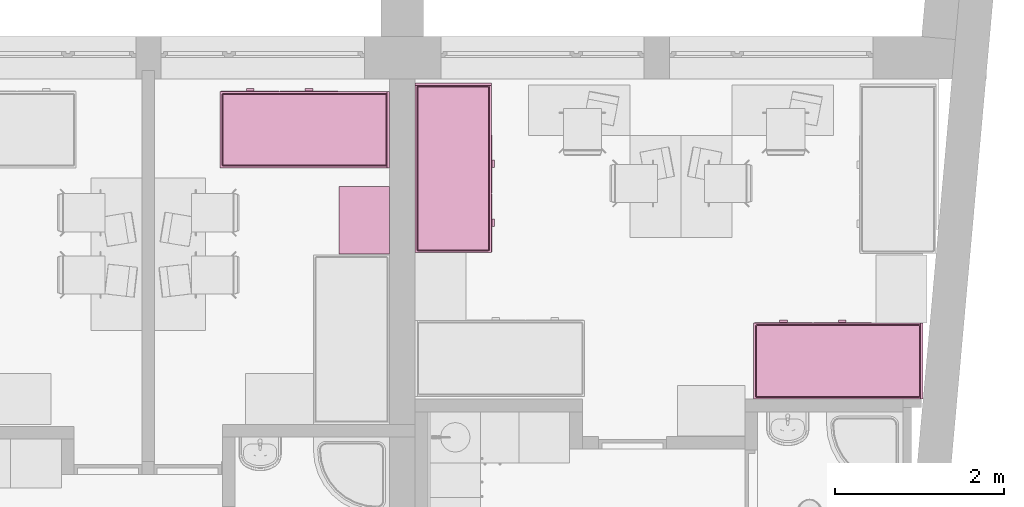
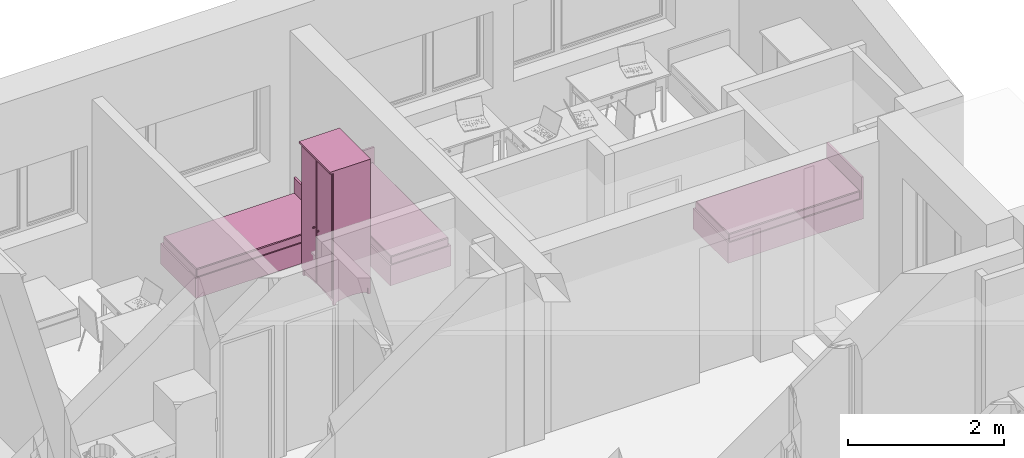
# One storey, part 146 of 165: 4 furnishings.
"""IFC2X3 building model written with IfcOpenShell, lengths in millimetres."""

from ifc_helpers import new_model, entity, si_unit, converted_unit, money_unit, direction, frame, origin_with_axes, place, context, subcontext, project, spatial, faceted_brep, source, transform, mapped, material, material_list, type_object, element, save


model = new_model("IFC2X3")

# Units and contexts
model_context = context("Model", 3, precision=1e-05, world=origin_with_axes(), true_north=direction((0.0, 1.0)))
body_context = subcontext(model_context, "Body", "Model", "MODEL_VIEW")
ifc_project = project(units=[si_unit("LENGTHUNIT", "METRE", prefix="MILLI"), si_unit("AREAUNIT", "SQUARE_METRE"), si_unit("VOLUMEUNIT", "CUBIC_METRE"), converted_unit("PLANEANGLEUNIT", "DEGREE", entity("IfcPlaneAngleMeasure", 0.0174532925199), si_unit("PLANEANGLEUNIT", "RADIAN"), dimensions=[0, 0, 0, 0, 0, 0, 0]), si_unit("SOLIDANGLEUNIT", "STERADIAN"), money_unit("USD"), converted_unit("TIMEUNIT", "Year", entity("IfcTimeMeasure", 31556926.0), si_unit("TIMEUNIT", "SECOND"), dimensions=[0, 0, 0, 0, 0, 0, 0]), si_unit("MASSUNIT", "GRAM"), si_unit("THERMODYNAMICTEMPERATUREUNIT", "DEGREE_CELSIUS"), si_unit("LUMINOUSINTENSITYUNIT", "LUMEN")], contexts=[model_context])

# Site, building, storey
site_placement = place(None, origin_with_axes())
site = spatial("IfcSite", under=ifc_project, at=site_placement, Name="Site", CompositionType="ELEMENT")
building_placement = place(site_placement, origin_with_axes())
building = spatial("IfcBuilding", under=site, at=building_placement, Name="Building", CompositionType="ELEMENT")
storey_placement = place(building_placement, frame((0.0, 0.0, 6300.0), z_axis=(0.0, 0.0, 1.0), x_axis=(1.0, 0.0, 0.0)))
storey = spatial("IfcBuildingStorey", under=building, at=storey_placement, Name="4KORRUS", CompositionType="ELEMENT", Elevation=6300.0)

# Furnishings
ifc_material = material(Name="Background")
ifc_material_list = material_list([ifc_material])
furnishing_element_type_1 = type_object("IfcFurnishingElementType", Name="Bed 19")
shared_shape_1 = source(origin_with_axes(), body_context, "Body", "Brep", [
    faceted_brep([(900.0, 1970.0, 0.0), (0.0, 1970.0, 0.0), (0.0, 2000.0, 0.0), (900.0, 2000.0, 0.0), (900.0, 1970.0, 660.0), (0.0, 1970.0, 660.0), (0.0, 2000.0, 660.0), (900.0, 2000.0, 660.0)], [[[0, 1, 2, 3]], [[1, 0, 4, 5]], [[2, 1, 5, 6]], [[3, 2, 6, 7]], [[0, 3, 7, 4]], [[5, 4, 7, 6]]]),
    faceted_brep([(900.0, 0.0, 0.0), (0.0, 0.0, 0.0), (0.0, 1970.0, 0.0), (900.0, 1970.0, 0.0), (900.0, 0.0, 320.0), (0.0, 0.0, 320.0), (0.0, 1970.0, 320.0), (900.0, 1970.0, 320.0)], [[[0, 1, 2, 3]], [[1, 0, 4, 5]], [[2, 1, 5, 6]], [[3, 2, 6, 7]], [[0, 3, 7, 4]], [[5, 4, 7, 6]]]),
    faceted_brep([(905.0, 10.0, 30.0), (900.0, 10.0, 30.0), (900.0, 695.0, 30.0), (905.0, 695.0, 30.0), (905.0, 10.0, 290.0), (900.0, 10.0, 290.0), (900.0, 695.0, 290.0), (905.0, 695.0, 290.0)], [[[0, 1, 2, 3]], [[1, 0, 4, 5]], [[2, 1, 5, 6]], [[3, 2, 6, 7]], [[0, 3, 7, 4]], [[5, 4, 7, 6]]]),
    faceted_brep([(935.0, 307.5, 150.0), (905.0, 307.5, 150.0), (905.0, 397.5, 150.0), (935.0, 397.5, 150.0), (935.0, 307.5, 170.0), (905.0, 307.5, 170.0), (905.0, 397.5, 170.0), (935.0, 397.5, 170.0)], [[[0, 1, 2, 3]], [[1, 0, 4, 5]], [[2, 1, 5, 6]], [[3, 2, 6, 7]], [[0, 3, 7, 4]], [[5, 4, 7, 6]]]),
    faceted_brep([(905.0, 705.0, 30.0), (900.0, 705.0, 30.0), (900.0, 1390.0, 30.0), (905.0, 1390.0, 30.0), (905.0, 705.0, 290.0), (900.0, 705.0, 290.0), (900.0, 1390.0, 290.0), (905.0, 1390.0, 290.0)], [[[0, 1, 2, 3]], [[1, 0, 4, 5]], [[2, 1, 5, 6]], [[3, 2, 6, 7]], [[0, 3, 7, 4]], [[5, 4, 7, 6]]]),
    faceted_brep([(935.0, 1002.5, 150.0), (905.0, 1002.5, 150.0), (905.0, 1092.5, 150.0), (935.0, 1092.5, 150.0), (935.0, 1002.5, 170.0), (905.0, 1002.5, 170.0), (905.0, 1092.5, 170.0), (935.0, 1092.5, 170.0)], [[[0, 1, 2, 3]], [[1, 0, 4, 5]], [[2, 1, 5, 6]], [[3, 2, 6, 7]], [[0, 3, 7, 4]], [[5, 4, 7, 6]]]),
    faceted_brep([(20.0, 40.0, 350.0), (20.0, 1950.0, 350.0), (21.522, 1957.654, 350.0), (25.858, 1964.142, 350.0), (32.346, 1968.478, 350.0), (40.0, 1970.0, 350.0), (860.0, 1970.0, 350.0), (867.654, 1968.478, 350.0), (874.142, 1964.142, 350.0), (878.478, 1957.654, 350.0), (880.0, 1950.0, 350.0), (880.0, 40.0, 350.0), (878.478, 32.346, 350.0), (874.142, 25.858, 350.0), (867.654, 21.522, 350.0), (860.0, 20.0, 350.0), (40.0, 20.0, 350.0), (32.346, 21.522, 350.0), (25.858, 25.858, 350.0), (21.522, 32.346, 350.0), (20.0, 40.0, 420.0), (20.0, 1950.0, 420.0), (21.522, 1957.654, 420.0), (25.858, 1964.142, 420.0), (32.346, 1968.478, 420.0), (40.0, 1970.0, 420.0), (860.0, 1970.0, 420.0), (867.654, 1968.478, 420.0), (874.142, 1964.142, 420.0), (878.478, 1957.654, 420.0), (880.0, 1950.0, 420.0), (880.0, 40.0, 420.0), (878.478, 32.346, 420.0), (874.142, 25.858, 420.0), (867.654, 21.522, 420.0), (860.0, 20.0, 420.0), (40.0, 20.0, 420.0), (32.346, 21.522, 420.0), (25.858, 25.858, 420.0), (21.522, 32.346, 420.0), (21.522, 40.15, 427.654), (21.522, 1949.85, 427.654), (22.956, 1957.06, 427.654), (26.955, 1963.045, 427.654), (32.94, 1967.044, 427.654), (40.15, 1968.478, 427.654), (859.85, 1968.478, 427.654), (867.06, 1967.044, 427.654), (873.045, 1963.045, 427.654), (877.044, 1957.06, 427.654), (878.478, 1949.85, 427.654), (878.478, 40.15, 427.654), (877.044, 32.94, 427.654), (873.045, 26.955, 427.654), (867.06, 22.956, 427.654), (859.85, 21.522, 427.654), (40.15, 21.522, 427.654), (32.94, 22.956, 427.654), (26.955, 26.955, 427.654), (22.956, 32.94, 427.654), (32.346, 41.216, 438.478), (32.346, 1948.784, 438.478), (33.152, 1952.836, 438.478), (34.759, 1955.241, 438.478), (37.164, 1956.848, 438.478), (41.216, 1957.654, 438.478), (858.784, 1957.654, 438.478), (862.836, 1956.848, 438.478), (865.241, 1955.241, 438.478), (866.848, 1952.836, 438.478), (867.654, 1948.784, 438.478), (867.654, 41.216, 438.478), (866.848, 37.164, 438.478), (865.241, 34.759, 438.478), (862.836, 33.152, 438.478), (858.784, 32.346, 438.478), (41.216, 32.346, 438.478), (37.164, 33.152, 438.478), (34.759, 34.759, 438.478), (33.152, 37.164, 438.478), (40.0, 41.97, 440.0), (40.0, 1948.03, 440.0), (40.327, 1949.673, 440.0), (40.0, 1950.0, 439.924), (41.97, 1950.0, 440.0), (858.03, 1950.0, 440.0), (859.673, 1949.673, 440.0), (860.0, 1950.0, 439.924), (860.0, 1948.03, 440.0), (860.0, 41.97, 440.0), (859.673, 40.327, 440.0), (860.0, 40.0, 439.924), (858.03, 40.0, 440.0), (41.97, 40.0, 440.0), (40.327, 40.327, 440.0), (40.0, 40.0, 439.924)], [[[0, 1, 2, 3, 4, 5, 6, 7, 8, 9, 10, 11, 12, 13, 14, 15, 16, 17, 18, 19]], [[1, 0, 20, 21]], [[2, 1, 21, 22]], [[3, 2, 22, 23]], [[4, 3, 23, 24]], [[5, 4, 24, 25]], [[6, 5, 25, 26]], [[7, 6, 26, 27]], [[8, 7, 27, 28]], [[9, 8, 28, 29]], [[10, 9, 29, 30]], [[11, 10, 30, 31]], [[12, 11, 31, 32]], [[13, 12, 32, 33]], [[14, 13, 33, 34]], [[15, 14, 34, 35]], [[16, 15, 35, 36]], [[17, 16, 36, 37]], [[18, 17, 37, 38]], [[19, 18, 38, 39]], [[0, 19, 39, 20]], [[21, 20, 40, 41]], [[22, 21, 41, 42]], [[23, 22, 42, 43]], [[24, 23, 43, 44]], [[25, 24, 44, 45]], [[26, 25, 45, 46]], [[27, 26, 46, 47]], [[28, 27, 47, 48]], [[29, 28, 48, 49]], [[30, 29, 49, 50]], [[31, 30, 50, 51]], [[32, 31, 51, 52]], [[33, 32, 52, 53]], [[34, 33, 53, 54]], [[35, 34, 54, 55]], [[36, 35, 55, 56]], [[37, 36, 56, 57]], [[38, 37, 57, 58]], [[39, 38, 58, 59]], [[20, 39, 59, 40]], [[41, 40, 60, 61]], [[42, 41, 61, 62]], [[43, 42, 62, 63]], [[44, 43, 63, 64]], [[45, 44, 64, 65]], [[46, 45, 65, 66]], [[47, 46, 66, 67]], [[48, 47, 67, 68]], [[49, 48, 68, 69]], [[50, 49, 69, 70]], [[51, 50, 70, 71]], [[52, 51, 71, 72]], [[53, 52, 72, 73]], [[54, 53, 73, 74]], [[55, 54, 74, 75]], [[56, 55, 75, 76]], [[57, 56, 76, 77]], [[58, 57, 77, 78]], [[59, 58, 78, 79]], [[40, 59, 79, 60]], [[61, 60, 80, 81]], [[62, 61, 81, 82, 83]], [[63, 62, 83]], [[64, 63, 83]], [[65, 64, 83, 82, 84]], [[66, 65, 84, 85]], [[67, 66, 85, 86, 87]], [[68, 67, 87]], [[69, 68, 87]], [[70, 69, 87, 86, 88]], [[71, 70, 88, 89]], [[72, 71, 89, 90, 91]], [[73, 72, 91]], [[74, 73, 91]], [[75, 74, 91, 90, 92]], [[76, 75, 92, 93]], [[77, 76, 93, 94, 95]], [[78, 77, 95]], [[79, 78, 95]], [[60, 79, 95, 94, 80]], [[81, 80, 94, 93, 92, 90, 89, 88, 86, 85, 84, 82]]]),
    faceted_brep([(20.0, 40.0, 350.0), (21.522, 32.346, 350.0), (25.858, 25.858, 350.0), (32.346, 21.522, 350.0), (40.0, 20.0, 350.0), (860.0, 20.0, 350.0), (867.654, 21.522, 350.0), (874.142, 25.858, 350.0), (878.478, 32.346, 350.0), (880.0, 40.0, 350.0), (880.0, 1950.0, 350.0), (878.478, 1957.654, 350.0), (874.142, 1964.142, 350.0), (867.654, 1968.478, 350.0), (860.0, 1970.0, 350.0), (40.0, 1970.0, 350.0), (32.346, 1968.478, 350.0), (25.858, 1964.142, 350.0), (21.522, 1957.654, 350.0), (20.0, 1950.0, 350.0), (20.0, 40.0, 320.0), (21.522, 32.346, 320.0), (25.858, 25.858, 320.0), (32.346, 21.522, 320.0), (40.0, 20.0, 320.0), (860.0, 20.0, 320.0), (867.654, 21.522, 320.0), (874.142, 25.858, 320.0), (878.478, 32.346, 320.0), (880.0, 40.0, 320.0), (880.0, 1950.0, 320.0), (878.478, 1957.654, 320.0), (874.142, 1964.142, 320.0), (867.654, 1968.478, 320.0), (860.0, 1970.0, 320.0), (40.0, 1970.0, 320.0), (32.346, 1968.478, 320.0), (25.858, 1964.142, 320.0), (21.522, 1957.654, 320.0), (20.0, 1950.0, 320.0)], [[[0, 1, 2, 3, 4, 5, 6, 7, 8, 9, 10, 11, 12, 13, 14, 15, 16, 17, 18, 19]], [[0, 20, 21, 1]], [[1, 21, 22, 2]], [[2, 22, 23, 3]], [[3, 23, 24, 4]], [[4, 24, 25, 5]], [[5, 25, 26, 6]], [[6, 26, 27, 7]], [[7, 27, 28, 8]], [[8, 28, 29, 9]], [[9, 29, 30, 10]], [[10, 30, 31, 11]], [[11, 31, 32, 12]], [[12, 32, 33, 13]], [[13, 33, 34, 14]], [[14, 34, 35, 15]], [[15, 35, 36, 16]], [[16, 36, 37, 17]], [[17, 37, 38, 18]], [[18, 38, 39, 19]], [[19, 39, 20, 0]], [[20, 39, 38, 37, 36, 35, 34, 33, 32, 31, 30, 29, 28, 27, 26, 25, 24, 23, 22, 21]]]),
])
furnishing_1_placement = place(storey_placement, frame((12009.7032967, -7190.45351827, 0.0), z_axis=(0.0, 0.0, 1.0), x_axis=(1.0, 0.0, 0.0)))
element("IfcFurnishingElement", 1, at=furnishing_1_placement, inside=storey, type_object=furnishing_element_type_1, material=ifc_material_list, Name="FU - 013", context=body_context, shape_type="MappedRepresentation", body=[
    mapped(shared_shape_1, transform((0.0, 0.0, 0.0))),
])
furnishing_element_type_2 = type_object("IfcFurnishingElementType", Name="Cupboard 19")
shared_shape_2 = source(origin_with_axes(), body_context, "Body", "Brep", [
    faceted_brep([(-780.0, 600.0, 120.0), (-780.0, 580.0, 120.0), (-780.0, 580.0, 2050.0), (-780.0, 600.0, 2050.0), (-20.0, 600.0, 120.0), (-20.0, 580.0, 120.0), (-20.0, 580.0, 2050.0), (-20.0, 600.0, 2050.0)], [[[0, 1, 2, 3]], [[0, 4, 5, 1]], [[1, 5, 6, 2]], [[3, 2, 6, 7]], [[4, 0, 3, 7]], [[5, 4, 7, 6]]]),
    faceted_brep([(0.0, 50.0, 100.0), (-20.0, 50.0, 100.0), (-20.0, 600.0, 100.0), (0.0, 600.0, 100.0), (0.0, 50.0, 2070.0), (-20.0, 50.0, 2070.0), (-20.0, 600.0, 2070.0), (0.0, 600.0, 2070.0)], [[[0, 1, 2, 3]], [[1, 0, 4, 5]], [[2, 1, 5, 6]], [[3, 2, 6, 7]], [[0, 3, 7, 4]], [[5, 4, 7, 6]]]),
    faceted_brep([(-780.0, 50.0, 100.0), (-800.0, 50.0, 100.0), (-800.0, 600.0, 100.0), (-780.0, 600.0, 100.0), (-780.0, 50.0, 2070.0), (-800.0, 50.0, 2070.0), (-800.0, 600.0, 2070.0), (-780.0, 600.0, 2070.0)], [[[0, 1, 2, 3]], [[1, 0, 4, 5]], [[2, 1, 5, 6]], [[3, 2, 6, 7]], [[0, 3, 7, 4]], [[5, 4, 7, 6]]]),
    faceted_brep([(-20.0, 50.0, 100.0), (-780.0, 50.0, 100.0), (-780.0, 600.0, 100.0), (-20.0, 600.0, 100.0), (-20.0, 50.0, 120.0), (-780.0, 50.0, 120.0), (-780.0, 600.0, 120.0), (-20.0, 600.0, 120.0)], [[[0, 1, 2, 3]], [[1, 0, 4, 5]], [[2, 1, 5, 6]], [[3, 2, 6, 7]], [[0, 3, 7, 4]], [[5, 4, 7, 6]]]),
    faceted_brep([(-20.0, 50.0, 2050.0), (-780.0, 50.0, 2050.0), (-780.0, 600.0, 2050.0), (-20.0, 600.0, 2050.0), (-20.0, 50.0, 2070.0), (-780.0, 50.0, 2070.0), (-780.0, 600.0, 2070.0), (-20.0, 600.0, 2070.0)], [[[0, 1, 2, 3]], [[1, 0, 4, 5]], [[2, 1, 5, 6]], [[3, 2, 6, 7]], [[0, 3, 7, 4]], [[5, 4, 7, 6]]]),
    faceted_brep([(0.0, 600.0, 2070.0), (0.0, 600.0, 2100.0), (0.0, 0.0, 2100.0), (0.0, 0.0, 2070.0), (-800.0, 600.0, 2070.0), (-800.0, 600.0, 2100.0), (-800.0, 0.0, 2100.0), (-800.0, 0.0, 2070.0)], [[[0, 1, 2, 3]], [[4, 5, 1, 0]], [[1, 5, 6, 2]], [[3, 2, 6, 7]], [[0, 3, 7, 4]], [[7, 6, 5, 4]]]),
    faceted_brep([(-760.0, 590.0, 25.0), (-640.962, 590.0, 45.8), (-640.962, 570.0, 45.8), (-760.0, 570.0, 25.0), (-760.0, 590.0, 100.0), (-40.0, 590.0, 100.0), (-40.0, 590.0, 25.0), (-159.038, 590.0, 45.8), (-279.23, 590.0, 58.32), (-400.0, 590.0, 62.5), (-520.77, 590.0, 58.32), (-520.77, 570.0, 58.32), (-400.0, 570.0, 62.5), (-279.23, 570.0, 58.32), (-159.038, 570.0, 45.8), (-40.0, 570.0, 25.0), (-40.0, 570.0, 100.0), (-760.0, 570.0, 100.0)], [[[0, 1, 2, 3]], [[0, 4, 5, 6, 7, 8, 9, 10, 1]], [[1, 10, 11, 2]], [[3, 2, 11, 12, 13, 14, 15, 16, 17]], [[4, 0, 3, 17]], [[5, 4, 17, 16]], [[6, 5, 16, 15]], [[7, 6, 15, 14]], [[8, 7, 14, 13]], [[9, 8, 13, 12]], [[10, 9, 12, 11]]]),
    faceted_brep([(-760.0, 80.0, 25.0), (-640.962, 80.0, 45.8), (-640.962, 60.0, 45.8), (-760.0, 60.0, 25.0), (-760.0, 80.0, 100.0), (-40.0, 80.0, 100.0), (-40.0, 80.0, 25.0), (-159.038, 80.0, 45.8), (-279.23, 80.0, 58.32), (-400.0, 80.0, 62.5), (-520.77, 80.0, 58.32), (-520.77, 60.0, 58.32), (-400.0, 60.0, 62.5), (-279.23, 60.0, 58.32), (-159.038, 60.0, 45.8), (-40.0, 60.0, 25.0), (-40.0, 60.0, 100.0), (-760.0, 60.0, 100.0)], [[[0, 1, 2, 3]], [[0, 4, 5, 6, 7, 8, 9, 10, 1]], [[1, 10, 11, 2]], [[3, 2, 11, 12, 13, 14, 15, 16, 17]], [[4, 0, 3, 17]], [[5, 4, 17, 16]], [[6, 5, 16, 15]], [[7, 6, 15, 14]], [[8, 7, 14, 13]], [[9, 8, 13, 12]], [[10, 9, 12, 11]]]),
    faceted_brep([(-790.0, 90.0, 25.0), (-790.0, 141.266, 38.072), (-770.0, 141.266, 38.072), (-770.0, 90.0, 25.0), (-790.0, 90.0, 100.0), (-790.0, 560.0, 100.0), (-790.0, 560.0, 25.0), (-790.0, 508.734, 38.072), (-790.0, 456.752, 47.92), (-790.0, 404.257, 54.508), (-790.0, 351.453, 57.808), (-790.0, 298.547, 57.808), (-790.0, 245.743, 54.508), (-790.0, 193.248, 47.92), (-770.0, 193.248, 47.92), (-770.0, 245.743, 54.508), (-770.0, 298.547, 57.808), (-770.0, 351.453, 57.808), (-770.0, 404.257, 54.508), (-770.0, 456.752, 47.92), (-770.0, 508.734, 38.072), (-770.0, 560.0, 25.0), (-770.0, 560.0, 100.0), (-770.0, 90.0, 100.0)], [[[0, 1, 2, 3]], [[0, 4, 5, 6, 7, 8, 9, 10, 11, 12, 13, 1]], [[1, 13, 14, 2]], [[3, 2, 14, 15, 16, 17, 18, 19, 20, 21, 22, 23]], [[4, 0, 3, 23]], [[5, 4, 23, 22]], [[6, 5, 22, 21]], [[7, 6, 21, 20]], [[8, 7, 20, 19]], [[9, 8, 19, 18]], [[10, 9, 18, 17]], [[11, 10, 17, 16]], [[12, 11, 16, 15]], [[13, 12, 15, 14]]]),
    faceted_brep([(-30.0, 90.0, 25.0), (-30.0, 141.266, 38.072), (-10.0, 141.266, 38.072), (-10.0, 90.0, 25.0), (-30.0, 90.0, 100.0), (-30.0, 560.0, 100.0), (-30.0, 560.0, 25.0), (-30.0, 508.734, 38.072), (-30.0, 456.752, 47.92), (-30.0, 404.257, 54.508), (-30.0, 351.453, 57.808), (-30.0, 298.547, 57.808), (-30.0, 245.743, 54.508), (-30.0, 193.248, 47.92), (-10.0, 193.248, 47.92), (-10.0, 245.743, 54.508), (-10.0, 298.547, 57.808), (-10.0, 351.453, 57.808), (-10.0, 404.257, 54.508), (-10.0, 456.752, 47.92), (-10.0, 508.734, 38.072), (-10.0, 560.0, 25.0), (-10.0, 560.0, 100.0), (-10.0, 90.0, 100.0)], [[[0, 1, 2, 3]], [[0, 4, 5, 6, 7, 8, 9, 10, 11, 12, 13, 1]], [[1, 13, 14, 2]], [[3, 2, 14, 15, 16, 17, 18, 19, 20, 21, 22, 23]], [[4, 0, 3, 23]], [[5, 4, 23, 22]], [[6, 5, 22, 21]], [[7, 6, 21, 20]], [[8, 7, 20, 19]], [[9, 8, 19, 18]], [[10, 9, 18, 17]], [[11, 10, 17, 16]], [[12, 11, 16, 15]], [[13, 12, 15, 14]]]),
    faceted_brep([(-760.0, 560.0, 0.0), (-760.0, 600.0, 0.0), (-760.0, 600.0, 100.0), (-760.0, 560.0, 100.0), (-800.0, 560.0, 0.0), (-800.0, 600.0, 0.0), (-800.0, 600.0, 100.0), (-800.0, 560.0, 100.0)], [[[0, 1, 2, 3]], [[0, 4, 5, 1]], [[1, 5, 6, 2]], [[3, 2, 6, 7]], [[4, 0, 3, 7]], [[5, 4, 7, 6]]]),
    faceted_brep([(0.0, 560.0, 0.0), (0.0, 600.0, 0.0), (0.0, 600.0, 100.0), (0.0, 560.0, 100.0), (-40.0, 560.0, 0.0), (-40.0, 600.0, 0.0), (-40.0, 600.0, 100.0), (-40.0, 560.0, 100.0)], [[[0, 1, 2, 3]], [[0, 4, 5, 1]], [[1, 5, 6, 2]], [[3, 2, 6, 7]], [[4, 0, 3, 7]], [[5, 4, 7, 6]]]),
    faceted_brep([(-760.0, 50.0, 0.0), (-760.0, 90.0, 0.0), (-760.0, 90.0, 100.0), (-760.0, 50.0, 100.0), (-800.0, 50.0, 0.0), (-800.0, 90.0, 0.0), (-800.0, 90.0, 100.0), (-800.0, 50.0, 100.0)], [[[0, 1, 2, 3]], [[0, 4, 5, 1]], [[1, 5, 6, 2]], [[3, 2, 6, 7]], [[4, 0, 3, 7]], [[5, 4, 7, 6]]]),
    faceted_brep([(0.0, 50.0, 0.0), (0.0, 90.0, 0.0), (0.0, 90.0, 100.0), (0.0, 50.0, 100.0), (-40.0, 50.0, 0.0), (-40.0, 90.0, 0.0), (-40.0, 90.0, 100.0), (-40.0, 50.0, 100.0)], [[[0, 1, 2, 3]], [[0, 4, 5, 1]], [[1, 5, 6, 2]], [[3, 2, 6, 7]], [[4, 0, 3, 7]], [[5, 4, 7, 6]]]),
    faceted_brep([(-780.0, 580.0, 587.5), (-780.0, 50.0, 587.5), (-780.0, 50.0, 607.5), (-780.0, 580.0, 607.5), (-20.0, 580.0, 587.5), (-20.0, 50.0, 587.5), (-20.0, 50.0, 607.5), (-20.0, 580.0, 607.5)], [[[0, 1, 2, 3]], [[0, 4, 5, 1]], [[1, 5, 6, 2]], [[3, 2, 6, 7]], [[4, 0, 3, 7]], [[5, 4, 7, 6]]]),
    faceted_brep([(-780.0, 580.0, 1075.0), (-780.0, 50.0, 1075.0), (-780.0, 50.0, 1095.0), (-780.0, 580.0, 1095.0), (-20.0, 580.0, 1075.0), (-20.0, 50.0, 1075.0), (-20.0, 50.0, 1095.0), (-20.0, 580.0, 1095.0)], [[[0, 1, 2, 3]], [[0, 4, 5, 1]], [[1, 5, 6, 2]], [[3, 2, 6, 7]], [[4, 0, 3, 7]], [[5, 4, 7, 6]]]),
    faceted_brep([(-780.0, 580.0, 1562.5), (-780.0, 50.0, 1562.5), (-780.0, 50.0, 1582.5), (-780.0, 580.0, 1582.5), (-20.0, 580.0, 1562.5), (-20.0, 50.0, 1562.5), (-20.0, 50.0, 1582.5), (-20.0, 580.0, 1582.5)], [[[0, 1, 2, 3]], [[0, 4, 5, 1]], [[1, 5, 6, 2]], [[3, 2, 6, 7]], [[4, 0, 3, 7]], [[5, 4, 7, 6]]]),
    faceted_brep([(-789.5, 50.0, 110.5), (-789.5, 50.0, 2059.5), (-400.5, 50.0, 2059.5), (-400.5, 50.0, 110.5), (-789.5, 40.0, 110.5), (-789.5, 40.0, 2059.5), (-400.5, 40.0, 2059.5), (-400.5, 40.0, 110.5), (-779.5, 30.0, 120.5), (-779.5, 30.0, 2049.5), (-410.5, 30.0, 2049.5), (-410.5, 30.0, 120.5)], [[[0, 1, 2, 3]], [[1, 0, 4, 5]], [[2, 1, 5, 6]], [[3, 2, 6, 7]], [[0, 3, 7, 4]], [[5, 4, 8, 9]], [[6, 5, 9, 10]], [[7, 6, 10, 11]], [[4, 7, 11, 8]], [[10, 9, 8, 11]]]),
    faceted_brep([(-399.5, 50.0, 110.5), (-399.5, 50.0, 2059.5), (-10.5, 50.0, 2059.5), (-10.5, 50.0, 110.5), (-399.5, 40.0, 110.5), (-399.5, 40.0, 2059.5), (-10.5, 40.0, 2059.5), (-10.5, 40.0, 110.5), (-389.5, 30.0, 120.5), (-389.5, 30.0, 2049.5), (-20.5, 30.0, 2049.5), (-20.5, 30.0, 120.5)], [[[0, 1, 2, 3]], [[1, 0, 4, 5]], [[2, 1, 5, 6]], [[3, 2, 6, 7]], [[0, 3, 7, 4]], [[5, 4, 8, 9]], [[6, 5, 9, 10]], [[7, 6, 10, 11]], [[4, 7, 11, 8]], [[10, 9, 8, 11]]]),
    faceted_brep([(-339.608, 30.0, 954.0), (-344.0, 30.0, 949.608), (-350.0, 30.0, 948.0), (-356.0, 30.0, 949.608), (-360.392, 30.0, 954.0), (-362.0, 30.0, 960.0), (-360.392, 30.0, 966.0), (-356.0, 30.0, 970.392), (-350.0, 30.0, 972.0), (-344.0, 30.0, 970.392), (-339.608, 30.0, 966.0), (-338.0, 30.0, 960.0), (-339.608, 5.0, 954.0), (-344.0, 5.0, 949.608), (-350.0, 5.0, 948.0), (-356.0, 5.0, 949.608), (-360.392, 5.0, 954.0), (-362.0, 5.0, 960.0), (-360.392, 5.0, 966.0), (-356.0, 5.0, 970.392), (-350.0, 5.0, 972.0), (-344.0, 5.0, 970.392), (-339.608, 5.0, 966.0), (-338.0, 5.0, 960.0)], [[[0, 1, 2, 3, 4, 5, 6, 7, 8, 9, 10, 11]], [[1, 0, 12, 13]], [[2, 1, 13, 14]], [[3, 2, 14, 15]], [[4, 3, 15, 16]], [[5, 4, 16, 17]], [[6, 5, 17, 18]], [[7, 6, 18, 19]], [[8, 7, 19, 20]], [[9, 8, 20, 21]], [[10, 9, 21, 22]], [[11, 10, 22, 23]], [[0, 11, 23, 12]], [[12, 23, 22, 21, 20, 19, 18, 17, 16, 15, 14, 13]]]),
    faceted_brep([(-460.392, 30.0, 954.0), (-462.0, 30.0, 960.0), (-460.392, 30.0, 966.0), (-456.0, 30.0, 970.392), (-450.0, 30.0, 972.0), (-444.0, 30.0, 970.392), (-439.608, 30.0, 966.0), (-438.0, 30.0, 960.0), (-439.608, 30.0, 954.0), (-444.0, 30.0, 949.608), (-450.0, 30.0, 948.0), (-456.0, 30.0, 949.608), (-460.392, 5.0, 954.0), (-462.0, 5.0, 960.0), (-460.392, 5.0, 966.0), (-456.0, 5.0, 970.392), (-450.0, 5.0, 972.0), (-444.0, 5.0, 970.392), (-439.608, 5.0, 966.0), (-438.0, 5.0, 960.0), (-439.608, 5.0, 954.0), (-444.0, 5.0, 949.608), (-450.0, 5.0, 948.0), (-456.0, 5.0, 949.608)], [[[0, 1, 2, 3, 4, 5, 6, 7, 8, 9, 10, 11]], [[0, 12, 13, 1]], [[1, 13, 14, 2]], [[2, 14, 15, 3]], [[3, 15, 16, 4]], [[4, 16, 17, 5]], [[5, 17, 18, 6]], [[6, 18, 19, 7]], [[7, 19, 20, 8]], [[8, 20, 21, 9]], [[9, 21, 22, 10]], [[10, 22, 23, 11]], [[11, 23, 12, 0]], [[12, 23, 22, 21, 20, 19, 18, 17, 16, 15, 14, 13]]]),
])
furnishing_2_placement = place(storey_placement, frame((11109.7032967, -7207.41563755, 0.0), z_axis=(0.0, 0.0, 1.0), x_axis=(0.0, -1.0, 0.0)))
element("IfcFurnishingElement", 2, at=furnishing_2_placement, inside=storey, type_object=furnishing_element_type_2, material=ifc_material_list, Name="FU - 014", context=body_context, shape_type="MappedRepresentation", body=[
    mapped(shared_shape_2, transform((0.0, 0.0, 0.0))),
])
shared_shape_3 = source(origin_with_axes(), body_context, "Body", "Brep", [
    faceted_brep([(-900.0, 1970.0, 0.0), (-900.0, 2000.0, 0.0), (0.0, 2000.0, 0.0), (0.0, 1970.0, 0.0), (-900.0, 1970.0, 660.0), (-900.0, 2000.0, 660.0), (0.0, 2000.0, 660.0), (0.0, 1970.0, 660.0)], [[[0, 1, 2, 3]], [[0, 4, 5, 1]], [[1, 5, 6, 2]], [[2, 6, 7, 3]], [[3, 7, 4, 0]], [[7, 6, 5, 4]]]),
    faceted_brep([(-900.0, 0.0, 0.0), (-900.0, 1970.0, 0.0), (0.0, 1970.0, 0.0), (0.0, 0.0, 0.0), (-900.0, 0.0, 320.0), (-900.0, 1970.0, 320.0), (0.0, 1970.0, 320.0), (0.0, 0.0, 320.0)], [[[0, 1, 2, 3]], [[0, 4, 5, 1]], [[1, 5, 6, 2]], [[2, 6, 7, 3]], [[3, 7, 4, 0]], [[7, 6, 5, 4]]]),
    faceted_brep([(-905.0, 10.0, 30.0), (-905.0, 695.0, 30.0), (-900.0, 695.0, 30.0), (-900.0, 10.0, 30.0), (-905.0, 10.0, 290.0), (-905.0, 695.0, 290.0), (-900.0, 695.0, 290.0), (-900.0, 10.0, 290.0)], [[[0, 1, 2, 3]], [[0, 4, 5, 1]], [[1, 5, 6, 2]], [[2, 6, 7, 3]], [[3, 7, 4, 0]], [[7, 6, 5, 4]]]),
    faceted_brep([(-935.0, 307.5, 150.0), (-935.0, 397.5, 150.0), (-905.0, 397.5, 150.0), (-905.0, 307.5, 150.0), (-935.0, 307.5, 170.0), (-935.0, 397.5, 170.0), (-905.0, 397.5, 170.0), (-905.0, 307.5, 170.0)], [[[0, 1, 2, 3]], [[0, 4, 5, 1]], [[1, 5, 6, 2]], [[2, 6, 7, 3]], [[3, 7, 4, 0]], [[7, 6, 5, 4]]]),
    faceted_brep([(-905.0, 705.0, 30.0), (-905.0, 1390.0, 30.0), (-900.0, 1390.0, 30.0), (-900.0, 705.0, 30.0), (-905.0, 705.0, 290.0), (-905.0, 1390.0, 290.0), (-900.0, 1390.0, 290.0), (-900.0, 705.0, 290.0)], [[[0, 1, 2, 3]], [[0, 4, 5, 1]], [[1, 5, 6, 2]], [[2, 6, 7, 3]], [[3, 7, 4, 0]], [[7, 6, 5, 4]]]),
    faceted_brep([(-935.0, 1002.5, 150.0), (-935.0, 1092.5, 150.0), (-905.0, 1092.5, 150.0), (-905.0, 1002.5, 150.0), (-935.0, 1002.5, 170.0), (-935.0, 1092.5, 170.0), (-905.0, 1092.5, 170.0), (-905.0, 1002.5, 170.0)], [[[0, 1, 2, 3]], [[0, 4, 5, 1]], [[1, 5, 6, 2]], [[2, 6, 7, 3]], [[3, 7, 4, 0]], [[7, 6, 5, 4]]]),
    faceted_brep([(-20.0, 40.0, 350.0), (-21.522, 32.346, 350.0), (-25.858, 25.858, 350.0), (-32.346, 21.522, 350.0), (-40.0, 20.0, 350.0), (-860.0, 20.0, 350.0), (-867.654, 21.522, 350.0), (-874.142, 25.858, 350.0), (-878.478, 32.346, 350.0), (-880.0, 40.0, 350.0), (-880.0, 1950.0, 350.0), (-878.478, 1957.654, 350.0), (-874.142, 1964.142, 350.0), (-867.654, 1968.478, 350.0), (-860.0, 1970.0, 350.0), (-40.0, 1970.0, 350.0), (-32.346, 1968.478, 350.0), (-25.858, 1964.142, 350.0), (-21.522, 1957.654, 350.0), (-20.0, 1950.0, 350.0), (-20.0, 40.0, 420.0), (-21.522, 32.346, 420.0), (-25.858, 25.858, 420.0), (-32.346, 21.522, 420.0), (-40.0, 20.0, 420.0), (-860.0, 20.0, 420.0), (-867.654, 21.522, 420.0), (-874.142, 25.858, 420.0), (-878.478, 32.346, 420.0), (-880.0, 40.0, 420.0), (-880.0, 1950.0, 420.0), (-878.478, 1957.654, 420.0), (-874.142, 1964.142, 420.0), (-867.654, 1968.478, 420.0), (-860.0, 1970.0, 420.0), (-40.0, 1970.0, 420.0), (-32.346, 1968.478, 420.0), (-25.858, 1964.142, 420.0), (-21.522, 1957.654, 420.0), (-20.0, 1950.0, 420.0), (-21.522, 40.15, 427.654), (-22.956, 32.94, 427.654), (-26.955, 26.955, 427.654), (-32.94, 22.956, 427.654), (-40.15, 21.522, 427.654), (-859.85, 21.522, 427.654), (-867.06, 22.956, 427.654), (-873.045, 26.955, 427.654), (-877.044, 32.94, 427.654), (-878.478, 40.15, 427.654), (-878.478, 1949.85, 427.654), (-877.044, 1957.06, 427.654), (-873.045, 1963.045, 427.654), (-867.06, 1967.044, 427.654), (-859.85, 1968.478, 427.654), (-40.15, 1968.478, 427.654), (-32.94, 1967.044, 427.654), (-26.955, 1963.045, 427.654), (-22.956, 1957.06, 427.654), (-21.522, 1949.85, 427.654), (-32.346, 41.216, 438.478), (-33.152, 37.164, 438.478), (-34.759, 34.759, 438.478), (-37.164, 33.152, 438.478), (-41.216, 32.346, 438.478), (-858.784, 32.346, 438.478), (-862.836, 33.152, 438.478), (-865.241, 34.759, 438.478), (-866.848, 37.164, 438.478), (-867.654, 41.216, 438.478), (-867.654, 1948.784, 438.478), (-866.848, 1952.836, 438.478), (-865.241, 1955.241, 438.478), (-862.836, 1956.848, 438.478), (-858.784, 1957.654, 438.478), (-41.216, 1957.654, 438.478), (-37.164, 1956.848, 438.478), (-34.759, 1955.241, 438.478), (-33.152, 1952.836, 438.478), (-32.346, 1948.784, 438.478), (-40.0, 41.97, 440.0), (-40.327, 40.327, 440.0), (-40.0, 40.0, 439.924), (-41.97, 40.0, 440.0), (-858.03, 40.0, 440.0), (-859.673, 40.327, 440.0), (-860.0, 40.0, 439.924), (-860.0, 41.97, 440.0), (-860.0, 1948.03, 440.0), (-859.673, 1949.673, 440.0), (-860.0, 1950.0, 439.924), (-858.03, 1950.0, 440.0), (-41.97, 1950.0, 440.0), (-40.327, 1949.673, 440.0), (-40.0, 1950.0, 439.924), (-40.0, 1948.03, 440.0)], [[[0, 1, 2, 3, 4, 5, 6, 7, 8, 9, 10, 11, 12, 13, 14, 15, 16, 17, 18, 19]], [[0, 20, 21, 1]], [[1, 21, 22, 2]], [[2, 22, 23, 3]], [[3, 23, 24, 4]], [[4, 24, 25, 5]], [[5, 25, 26, 6]], [[6, 26, 27, 7]], [[7, 27, 28, 8]], [[8, 28, 29, 9]], [[9, 29, 30, 10]], [[10, 30, 31, 11]], [[11, 31, 32, 12]], [[12, 32, 33, 13]], [[13, 33, 34, 14]], [[14, 34, 35, 15]], [[15, 35, 36, 16]], [[16, 36, 37, 17]], [[17, 37, 38, 18]], [[18, 38, 39, 19]], [[19, 39, 20, 0]], [[20, 40, 41, 21]], [[21, 41, 42, 22]], [[22, 42, 43, 23]], [[23, 43, 44, 24]], [[24, 44, 45, 25]], [[25, 45, 46, 26]], [[26, 46, 47, 27]], [[27, 47, 48, 28]], [[28, 48, 49, 29]], [[29, 49, 50, 30]], [[30, 50, 51, 31]], [[31, 51, 52, 32]], [[32, 52, 53, 33]], [[33, 53, 54, 34]], [[34, 54, 55, 35]], [[35, 55, 56, 36]], [[36, 56, 57, 37]], [[37, 57, 58, 38]], [[38, 58, 59, 39]], [[39, 59, 40, 20]], [[40, 60, 61, 41]], [[41, 61, 62, 42]], [[42, 62, 63, 43]], [[43, 63, 64, 44]], [[44, 64, 65, 45]], [[45, 65, 66, 46]], [[46, 66, 67, 47]], [[47, 67, 68, 48]], [[48, 68, 69, 49]], [[49, 69, 70, 50]], [[50, 70, 71, 51]], [[51, 71, 72, 52]], [[52, 72, 73, 53]], [[53, 73, 74, 54]], [[54, 74, 75, 55]], [[55, 75, 76, 56]], [[56, 76, 77, 57]], [[57, 77, 78, 58]], [[58, 78, 79, 59]], [[59, 79, 60, 40]], [[60, 80, 81, 82, 61]], [[61, 82, 62]], [[62, 82, 63]], [[63, 82, 81, 83, 64]], [[64, 83, 84, 65]], [[65, 84, 85, 86, 66]], [[66, 86, 67]], [[67, 86, 68]], [[68, 86, 85, 87, 69]], [[69, 87, 88, 70]], [[70, 88, 89, 90, 71]], [[71, 90, 72]], [[72, 90, 73]], [[73, 90, 89, 91, 74]], [[74, 91, 92, 75]], [[75, 92, 93, 94, 76]], [[76, 94, 77]], [[77, 94, 78]], [[78, 94, 93, 95, 79]], [[79, 95, 80, 60]], [[95, 93, 92, 91, 89, 88, 87, 85, 84, 83, 81, 80]]]),
    faceted_brep([(-20.0, 40.0, 350.0), (-20.0, 1950.0, 350.0), (-21.522, 1957.654, 350.0), (-25.858, 1964.142, 350.0), (-32.346, 1968.478, 350.0), (-40.0, 1970.0, 350.0), (-860.0, 1970.0, 350.0), (-867.654, 1968.478, 350.0), (-874.142, 1964.142, 350.0), (-878.478, 1957.654, 350.0), (-880.0, 1950.0, 350.0), (-880.0, 40.0, 350.0), (-878.478, 32.346, 350.0), (-874.142, 25.858, 350.0), (-867.654, 21.522, 350.0), (-860.0, 20.0, 350.0), (-40.0, 20.0, 350.0), (-32.346, 21.522, 350.0), (-25.858, 25.858, 350.0), (-21.522, 32.346, 350.0), (-20.0, 40.0, 320.0), (-20.0, 1950.0, 320.0), (-21.522, 1957.654, 320.0), (-25.858, 1964.142, 320.0), (-32.346, 1968.478, 320.0), (-40.0, 1970.0, 320.0), (-860.0, 1970.0, 320.0), (-867.654, 1968.478, 320.0), (-874.142, 1964.142, 320.0), (-878.478, 1957.654, 320.0), (-880.0, 1950.0, 320.0), (-880.0, 40.0, 320.0), (-878.478, 32.346, 320.0), (-874.142, 25.858, 320.0), (-867.654, 21.522, 320.0), (-860.0, 20.0, 320.0), (-40.0, 20.0, 320.0), (-32.346, 21.522, 320.0), (-25.858, 25.858, 320.0), (-21.522, 32.346, 320.0)], [[[0, 1, 2, 3, 4, 5, 6, 7, 8, 9, 10, 11, 12, 13, 14, 15, 16, 17, 18, 19]], [[1, 0, 20, 21]], [[2, 1, 21, 22]], [[3, 2, 22, 23]], [[4, 3, 23, 24]], [[5, 4, 24, 25]], [[6, 5, 25, 26]], [[7, 6, 26, 27]], [[8, 7, 27, 28]], [[9, 8, 28, 29]], [[10, 9, 29, 30]], [[11, 10, 30, 31]], [[12, 11, 31, 32]], [[13, 12, 32, 33]], [[14, 13, 33, 34]], [[15, 14, 34, 35]], [[16, 15, 35, 36]], [[17, 16, 36, 37]], [[18, 17, 37, 38]], [[19, 18, 38, 39]], [[0, 19, 39, 20]], [[20, 39, 38, 37, 36, 35, 34, 33, 32, 31, 30, 29, 28, 27, 26, 25, 24, 23, 22, 21]]]),
])
for number, where, z_axis, x_axis, name in (
    (3, (16005.2633787, -8920.3690093, 0.0), (0.0, 0.0, 1.0), (0.0, -1.0, 0.0), "FU - 013"),
    (4, (9709.70329669, -6189.6041535, 0.0), (0.0, 0.0, 1.0), (0.0, -1.0, 0.0), "FU - 013"),
):
    element("IfcFurnishingElement", number, at=place(storey_placement, frame(where, z_axis=z_axis, x_axis=x_axis)), inside=storey, type_object=furnishing_element_type_1, material=ifc_material_list, Name=name, context=body_context, shape_type="MappedRepresentation", body=[
        mapped(shared_shape_3, transform((0.0, 0.0, 0.0))),
    ])

save(model, "model.ifc")
